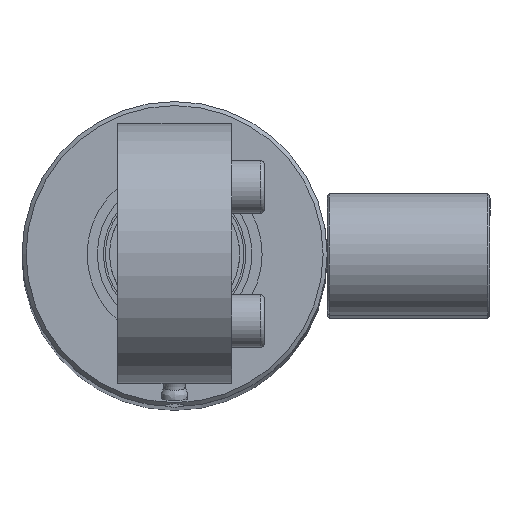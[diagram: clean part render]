
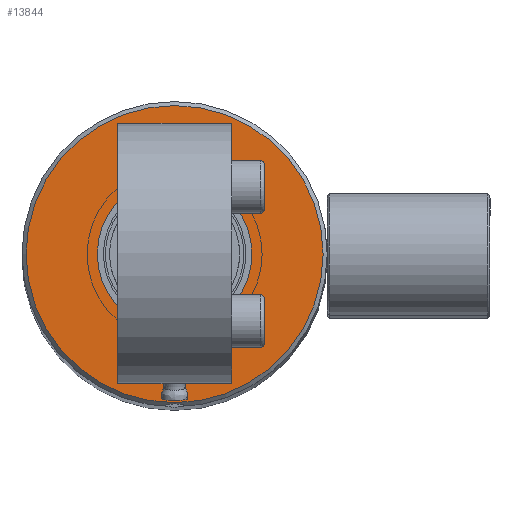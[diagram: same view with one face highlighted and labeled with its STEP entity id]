
A CAD part, top view. The second image highlights one B-rep face of the part: STEP entity #13844.
In plain terms, the highlighted planar face has unit normal (0, 0, 1) as drawn and (-1, 0, 0) by its records, which use the part's own axes.
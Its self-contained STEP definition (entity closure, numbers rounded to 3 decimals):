
#1544=FACE_BOUND('',#3395,.T.);
#1873=PLANE('',#14561);
#2566=FACE_OUTER_BOUND('',#3394,.T.);
#3394=EDGE_LOOP('',(#12526));
#3395=EDGE_LOOP('',(#12527));
#5551=CIRCLE('',#14560,36.5);
#5552=CIRCLE('',#14562,19.);
#6847=VERTEX_POINT('',#34972);
#6848=VERTEX_POINT('',#34976);
#8774=EDGE_CURVE('',#6847,#6847,#5551,.T.);
#8775=EDGE_CURVE('',#6848,#6848,#5552,.T.);
#12526=ORIENTED_EDGE('',*,*,#8774,.F.);
#12527=ORIENTED_EDGE('',*,*,#8775,.T.);
#13844=ADVANCED_FACE('',(#2566,#1544),#1873,.T.);
#14560=AXIS2_PLACEMENT_3D('',#34974,#16543,#16544);
#14561=AXIS2_PLACEMENT_3D('',#34975,#16545,#16546);
#14562=AXIS2_PLACEMENT_3D('',#34977,#16547,#16548);
#16543=DIRECTION('center_axis',(1.,0.,0.));
#16544=DIRECTION('ref_axis',(0.,-1.,0.));
#16545=DIRECTION('center_axis',(-1.,0.,0.));
#16546=DIRECTION('ref_axis',(0.,0.,1.));
#16547=DIRECTION('center_axis',(1.,0.,0.));
#16548=DIRECTION('ref_axis',(0.,0.,-1.));
#34972=CARTESIAN_POINT('',(10.,36.5,0.));
#34974=CARTESIAN_POINT('Origin',(10.,0.,0.));
#34975=CARTESIAN_POINT('Origin',(10.,37.5,0.));
#34976=CARTESIAN_POINT('',(10.,-19.,0.));
#34977=CARTESIAN_POINT('Origin',(10.,0.,0.));
